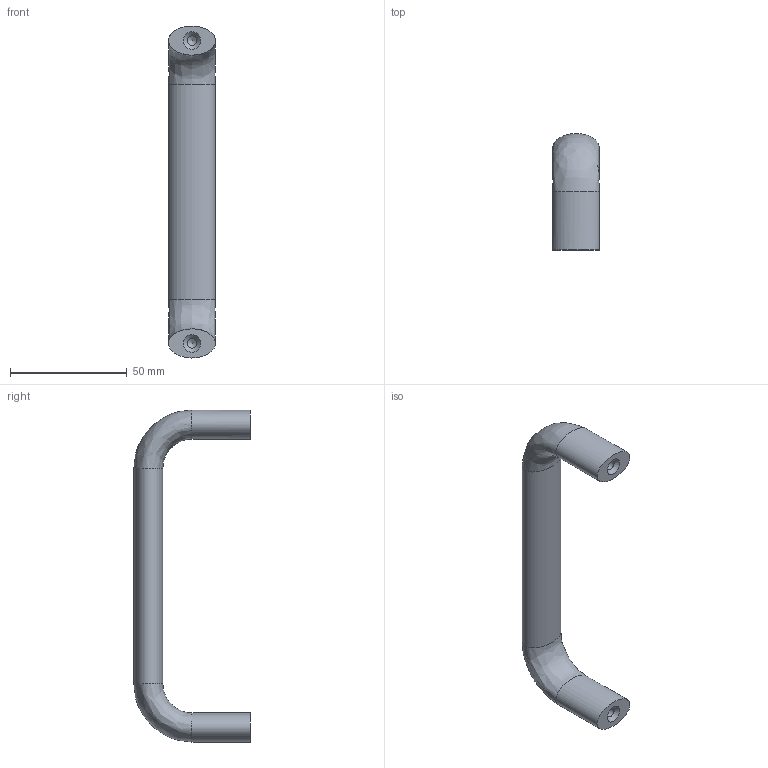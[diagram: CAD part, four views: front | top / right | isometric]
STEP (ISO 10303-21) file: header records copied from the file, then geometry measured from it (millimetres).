
FILE_DESCRIPTION(/* description */ (''),/* implementation_level */ '2;1');
FILE_NAME(/* name */ '\\NAS\db20\A-GA20-130\DR_A-GA20-130.stp',/* time_stamp */ '2019-11-13T10:03:14+09:00',/* author */ ('user'),/* organization */ (''),/* preprocessor_version */ 'ST-DEVELOPER v15.6',/* originating_system */ 'Autodesk Inventor 2015',/* authorisation */ '');
FILE_SCHEMA (('AUTOMOTIVE_DESIGN { 1 0 10303 214 3 1 1 }'));
Length unit declared in the file: millimetre
Products named in the file (1): DR_A-GA20-130
Bounding box: 20 x 50 x 142.49 mm (x, y, z)
Volume: 38507.8 mm3; surface area: 11740.1 mm2
Topology: 1 solids, 1 shells, 13 faces, 31 edges, 20 vertices
Faces by surface type: bspline 5, cone 4, cylinder 2, plane 2
Full cylindrical faces by diameter (mm): 4.134 x2
Entity records: 445 total; most frequent: CARTESIAN_POINT 161, DIRECTION 58, ORIENTED_EDGE 46, AXIS2_PLACEMENT_3D 29, EDGE_CURVE 23, EDGE_LOOP 19, VERTEX_POINT 18, FACE_OUTER_BOUND 13
